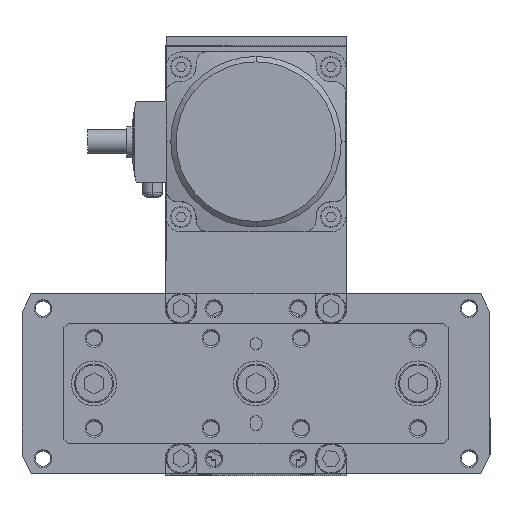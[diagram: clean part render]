
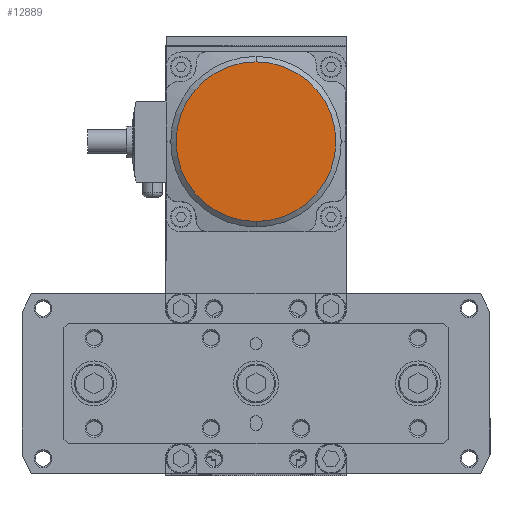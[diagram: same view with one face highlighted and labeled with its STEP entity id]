
A CAD part, top view. The second image highlights one B-rep face of the part: STEP entity #12889.
In plain terms, the highlighted planar face has unit normal (0, 0, 1).
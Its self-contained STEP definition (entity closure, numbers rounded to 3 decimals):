
#12838 = VERTEX_POINT ( 'NONE', #30058 ) ;
#12839 = VERTEX_POINT ( 'NONE', #30205 ) ;
#12889 = ADVANCED_FACE ( 'NONE', ( #30394 ), #30287, .F. ) ;
#12893 = EDGE_CURVE ( 'NONE', #12839, #12838, #30292, .T. ) ;
#12895 = ORIENTED_EDGE ( 'NONE', *, *, #13094, .F. ) ;
#12912 = EDGE_LOOP ( 'NONE', ( #12895, #13138 ) ) ;
#13094 = EDGE_CURVE ( 'NONE', #12838, #12839, #30557, .T. ) ;
#13138 = ORIENTED_EDGE ( 'NONE', *, *, #12893, .F. ) ;
#30058 = CARTESIAN_POINT ( 'NONE',  ( 187.19, 103.585, 64. ) ) ;
#30205 = CARTESIAN_POINT ( 'NONE',  ( 187.19, 50.353, 64. ) ) ;
#30238 = DIRECTION ( 'NONE',  ( 0., 1., 0. ) ) ;
#30239 = DIRECTION ( 'NONE',  ( 0., 0., -1. ) ) ;
#30241 = CARTESIAN_POINT ( 'NONE',  ( 187.19, 76.969, 64. ) ) ;
#30286 = AXIS2_PLACEMENT_3D ( 'NONE', #30241, #30239, #30238 ) ;
#30287 = PLANE ( 'NONE',  #30293 ) ;
#30288 = DIRECTION ( 'NONE',  ( 0., 1., 0. ) ) ;
#30289 = DIRECTION ( 'NONE',  ( 0., 0., -1. ) ) ;
#30292 = CIRCLE ( 'NONE', #30286, 26.616 ) ;
#30293 = AXIS2_PLACEMENT_3D ( 'NONE', #30344, #30289, #30288 ) ;
#30344 = CARTESIAN_POINT ( 'NONE',  ( 187.19, 76.969, 64. ) ) ;
#30394 = FACE_OUTER_BOUND ( 'NONE', #12912, .T. ) ;
#30459 = DIRECTION ( 'NONE',  ( 0., 1., 0. ) ) ;
#30460 = DIRECTION ( 'NONE',  ( 0., 0., -1. ) ) ;
#30478 = AXIS2_PLACEMENT_3D ( 'NONE', #30484, #30460, #30459 ) ;
#30484 = CARTESIAN_POINT ( 'NONE',  ( 187.19, 76.969, 64. ) ) ;
#30557 = CIRCLE ( 'NONE', #30478, 26.616 ) ;
